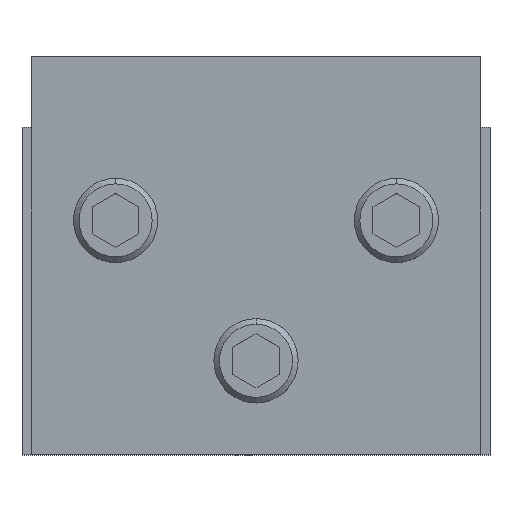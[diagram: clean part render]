
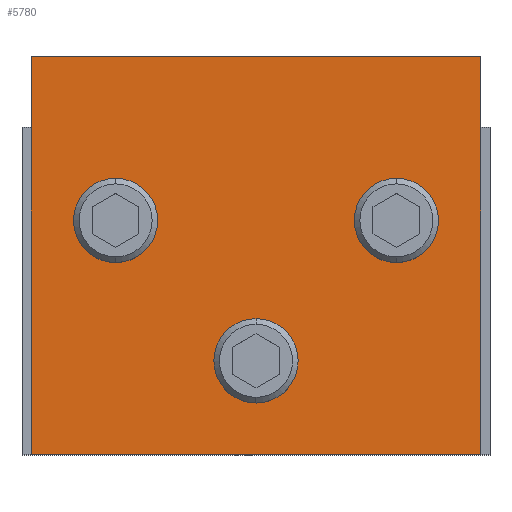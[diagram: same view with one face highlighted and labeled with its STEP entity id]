
A CAD part, top view. The second image highlights one B-rep face of the part: STEP entity #5780.
In plain terms, the highlighted planar face has unit normal (0, 0, 1).
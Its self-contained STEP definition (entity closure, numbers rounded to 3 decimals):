
#5555=VERTEX_POINT(' ',#5556);
#5556=CARTESIAN_POINT('',(48.,85.,100.));
#5557=VERTEX_POINT(' ',#5558);
#5558=CARTESIAN_POINT('',(-48.,85.,100.));
#5559=VERTEX_POINT(' ',#5560);
#5560=CARTESIAN_POINT('',(-48.,0.,100.));
#5561=VERTEX_POINT(' ',#5562);
#5562=CARTESIAN_POINT('',(48.,0.,100.));
#5563=VERTEX_POINT(' ',#5564);
#5564=CARTESIAN_POINT('',(0.,26.5,100.));
#5565=VERTEX_POINT(' ',#5566);
#5566=CARTESIAN_POINT('',(0.,13.5,100.));
#5567=VERTEX_POINT(' ',#5568);
#5568=CARTESIAN_POINT('',(-30.,56.5,100.));
#5569=VERTEX_POINT(' ',#5570);
#5570=CARTESIAN_POINT('',(-30.,43.5,100.));
#5571=VERTEX_POINT(' ',#5572);
#5572=CARTESIAN_POINT('',(30.,56.5,100.));
#5573=VERTEX_POINT(' ',#5574);
#5574=CARTESIAN_POINT('',(30.,43.5,100.));
#5595=LINE('',#5596,#5597);
#5596=CARTESIAN_POINT('',(48.,85.,100.));
#5597=VECTOR('',#5598,1.);
#5598=DIRECTION('',(-1.,0.,0.));
#5599=EDGE_CURVE(' ',#5555,#5557,#5595,.T.);
#5600=LINE('',#5601,#5602);
#5601=CARTESIAN_POINT('',(-48.,85.,100.));
#5602=VECTOR('',#5603,1.);
#5603=DIRECTION('',(0.,-1.,0.));
#5604=EDGE_CURVE(' ',#5557,#5559,#5600,.T.);
#5605=LINE('',#5606,#5607);
#5606=CARTESIAN_POINT('',(-48.,0.,100.));
#5607=VECTOR('',#5608,1.);
#5608=DIRECTION('',(1.,0.,0.));
#5609=EDGE_CURVE(' ',#5559,#5561,#5605,.T.);
#5610=LINE('',#5611,#5612);
#5611=CARTESIAN_POINT('',(48.,0.,100.));
#5612=VECTOR('',#5613,1.);
#5613=DIRECTION('',(0.,1.,0.));
#5614=EDGE_CURVE(' ',#5561,#5555,#5610,.T.);
#5615=CIRCLE('',#5616,6.5);
#5616=AXIS2_PLACEMENT_3D('',#5617,#5618,#5619);
#5617=CARTESIAN_POINT('',(0.,20.,100.));
#5618=DIRECTION('',(0.,0.,-1.));
#5619=DIRECTION('',(-1.,0.,0.));
#5620=EDGE_CURVE(' ',#5563,#5565,#5615,.T.);
#5621=CIRCLE('',#5622,6.5);
#5622=AXIS2_PLACEMENT_3D('',#5623,#5624,#5625);
#5623=CARTESIAN_POINT('',(0.,20.,100.));
#5624=DIRECTION('',(0.,0.,-1.));
#5625=DIRECTION('',(1.,0.,0.));
#5626=EDGE_CURVE(' ',#5565,#5563,#5621,.T.);
#5627=CIRCLE('',#5628,6.5);
#5628=AXIS2_PLACEMENT_3D('',#5629,#5630,#5631);
#5629=CARTESIAN_POINT('',(-30.,50.,100.));
#5630=DIRECTION('',(0.,0.,-1.));
#5631=DIRECTION('',(-1.,0.,0.));
#5632=EDGE_CURVE(' ',#5567,#5569,#5627,.T.);
#5633=CIRCLE('',#5634,6.5);
#5634=AXIS2_PLACEMENT_3D('',#5635,#5636,#5637);
#5635=CARTESIAN_POINT('',(-30.,50.,100.));
#5636=DIRECTION('',(0.,0.,-1.));
#5637=DIRECTION('',(1.,0.,0.));
#5638=EDGE_CURVE(' ',#5569,#5567,#5633,.T.);
#5639=CIRCLE('',#5640,6.5);
#5640=AXIS2_PLACEMENT_3D('',#5641,#5642,#5643);
#5641=CARTESIAN_POINT('',(30.,50.,100.));
#5642=DIRECTION('',(0.,0.,-1.));
#5643=DIRECTION('',(-1.,0.,0.));
#5644=EDGE_CURVE(' ',#5571,#5573,#5639,.T.);
#5645=CIRCLE('',#5646,6.5);
#5646=AXIS2_PLACEMENT_3D('',#5647,#5648,#5649);
#5647=CARTESIAN_POINT('',(30.,50.,100.));
#5648=DIRECTION('',(0.,0.,-1.));
#5649=DIRECTION('',(1.,0.,0.));
#5650=EDGE_CURVE(' ',#5573,#5571,#5645,.T.);
#5757=ORIENTED_EDGE('',*,*,#5599,.T.);
#5758=ORIENTED_EDGE('',*,*,#5604,.T.);
#5759=ORIENTED_EDGE('',*,*,#5609,.T.);
#5760=ORIENTED_EDGE('',*,*,#5614,.T.);
#5761=EDGE_LOOP('',(#5757,#5758,#5759,#5760));
#5762=FACE_OUTER_BOUND('',#5761,.T.);
#5763=ORIENTED_EDGE('',*,*,#5620,.T.);
#5764=ORIENTED_EDGE('',*,*,#5626,.T.);
#5765=EDGE_LOOP('',(#5763,#5764));
#5766=FACE_BOUND('',#5765,.T.);
#5767=ORIENTED_EDGE('',*,*,#5632,.T.);
#5768=ORIENTED_EDGE('',*,*,#5638,.T.);
#5769=EDGE_LOOP('',(#5767,#5768));
#5770=FACE_BOUND('',#5769,.T.);
#5771=ORIENTED_EDGE('',*,*,#5644,.T.);
#5772=ORIENTED_EDGE('',*,*,#5650,.T.);
#5773=EDGE_LOOP('',(#5771,#5772));
#5774=FACE_BOUND('',#5773,.T.);
#5775=PLANE('',#5776);
#5776=AXIS2_PLACEMENT_3D('',#5777,#5778,#5779);
#5777=CARTESIAN_POINT('',(48.,85.,100.));
#5778=DIRECTION('',(0.,0.,1.));
#5779=DIRECTION('',(1.,0.,0.));
#5780=ADVANCED_FACE('',(#5762,#5766,#5770,#5774),#5775,.T.);
